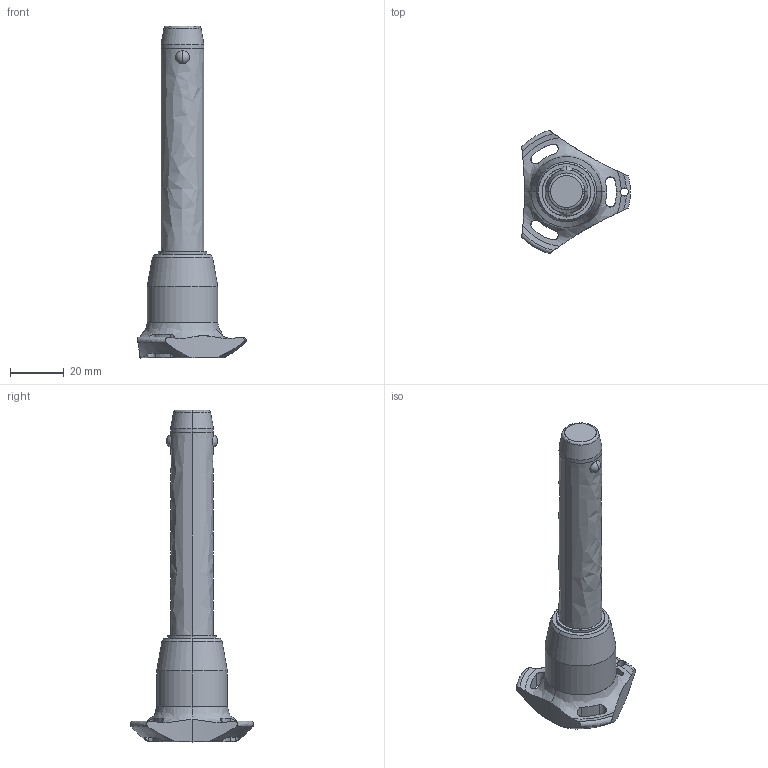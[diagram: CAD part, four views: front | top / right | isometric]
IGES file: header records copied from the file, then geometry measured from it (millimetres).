
Start section: SolidWorks IGES file using analytic representation for surfaces
Global section: file name: C:\Users\ianosborn\Desktop\33060_v2\33060.BK_v2_20240910_IGES\33060.W0894.igs; native system: SolidWorks 2019; preprocessor: SolidWorks 2019; author: IanOsborn; date: 240910.201836; units: millimetre
Bounding box: 40.5 x 45.88 x 123.7 mm (x, y, z)
Surface area: 10177.5 mm2 (no closed solid volume)
Topology: 0 solids, 0 shells, 68 faces, 1451 edges, 1447 vertices
Faces by surface type: revolution 52, bspline 16
